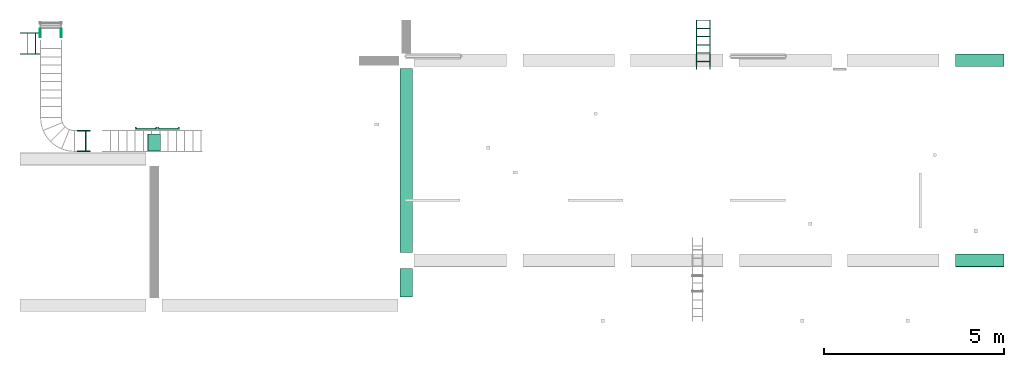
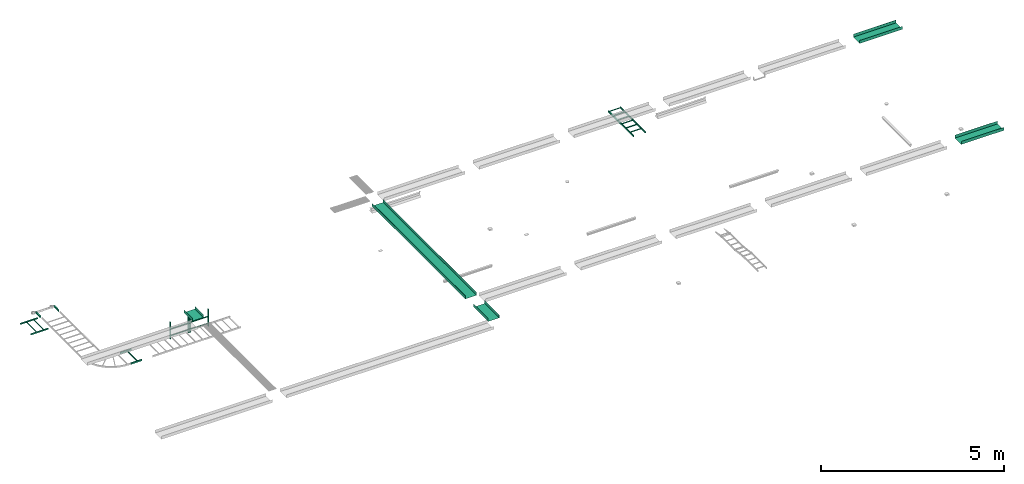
# One storey, part 9 of 14: 11 flow segments.
"""IFC2X3 building model written with IfcOpenShell, lengths in millimetres."""

from ifc_helpers import new_model, entity, si_unit, converted_unit, derived_unit, direction, frame, origin_with_axes, place, context, subcontext, project, spatial, open_shell, faceted_brep, surface_model, source, transform, mapped, type_object, element, save


model = new_model("IFC2X3")

# Units and contexts
model_context = context("Model", 3, precision=0.01, world=frame((0.0, 4.29681676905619e-09, 0.0)), true_north=direction((4.01073788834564e-13, 1.0)))
plan_context = context("Plan", 3, precision=0.01, world=frame((0.0, 4.29681676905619e-09, 0.0)), true_north=direction((4.01073788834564e-13, 1.0)))
body_context = subcontext(model_context, "Body", "Model", "MODEL_VIEW")
ifc_project = project(units=[converted_unit("PLANEANGLEUNIT", "DEGREE", entity("IfcPositiveLengthMeasure", 0.0174532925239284), si_unit("PLANEANGLEUNIT", "RADIAN"), dimensions=[0, 0, 0, 0, 0, 0, 0]), si_unit("AREAUNIT", "SQUARE_METRE"), si_unit("LENGTHUNIT", "METRE", prefix="MILLI"), si_unit("MASSUNIT", "GRAM", prefix="KILO"), si_unit("POWERUNIT", "WATT"), si_unit("PRESSUREUNIT", "PASCAL", prefix="KILO"), si_unit("FORCEUNIT", "NEWTON", prefix="KILO"), si_unit("ELECTRICVOLTAGEUNIT", "VOLT"), si_unit("ELECTRICCURRENTUNIT", "AMPERE"), si_unit("THERMODYNAMICTEMPERATUREUNIT", "DEGREE_CELSIUS"), si_unit("TIMEUNIT", "SECOND"), si_unit("VOLUMEUNIT", "CUBIC_METRE"), derived_unit("LINEARVELOCITYUNIT", [(si_unit("LENGTHUNIT", "METRE"), 1), (si_unit("TIMEUNIT", "SECOND"), -1)]), derived_unit("VOLUMETRICFLOWRATEUNIT", [(si_unit("VOLUMEUNIT", "CUBIC_METRE"), 1), (si_unit("TIMEUNIT", "SECOND"), -1)]), derived_unit("THERMALTRANSMITTANCEUNIT", [(si_unit("POWERUNIT", "WATT"), 1), (si_unit("THERMODYNAMICTEMPERATUREUNIT", "KELVIN"), -1), (si_unit("AREAUNIT", "SQUARE_METRE"), -1)]), derived_unit("SOUNDPRESSUREUNIT", [(si_unit("PRESSUREUNIT", "PASCAL"), 1)])], contexts=[model_context, plan_context])

# Site, building, storey
site_placement = place(None, frame((0.0, -4.29681676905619e-09, 0.0), z_axis=(0.0, 0.0, 1.0), x_axis=(1.0, 0.0, 0.0)))
site = spatial("IfcSite", under=ifc_project, at=site_placement, Name="ENGM", CompositionType="ELEMENT")
building_placement = place(site_placement, frame((0.0, 4.29681676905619e-09, 0.0), z_axis=(0.0, 0.0, 1.0), x_axis=(1.0, 0.0, 0.0)))
building = spatial("IfcBuilding", under=site, at=building_placement, Name="TG", CompositionType="ELEMENT")
storey_placement = place(building_placement, frame((0.0, 0.0, 205200.0), z_axis=(0.0, 0.0, 1.0), x_axis=(1.0, 0.0, 0.0)))
storey = spatial("IfcBuildingStorey", under=building, at=storey_placement, Name="Nivå D + 1,2", CompositionType="ELEMENT", Elevation=205200.0)

# Flow segments
cable_carrier_segment_type_1 = type_object("IfcCableCarrierSegmentType", Name="Kabelbro", PredefinedType="CABLELADDERSEGMENT")
shared_shape_1 = source(origin_with_axes(), body_context, "Body", "SurfaceModel", [
    surface_model("IfcShellBasedSurfaceModel", [(0.0, -274.60001, 25.0), (0.0, -300.0, -25.0), (0.0, -300.0, 25.0), (0.0, -274.60001, -25.0), (0.0, 300.0, 25.0), (0.0, 274.60001, -25.0), (0.0, 274.60001, 25.0), (0.0, 300.0, -25.0), (239.99999, -300.0, 25.0), (239.99999, -300.0, -25.0), (239.99999, -274.60001, 25.0), (239.99999, -274.60001, -25.0), (239.99999, 274.60001, 25.0), (239.99999, 274.60001, -25.0), (239.99999, 300.0, 25.0), (239.99999, 300.0, -25.0)], [open_shell([[[0, 1, 2]], [[1, 0, 3]], [[4, 5, 6]], [[5, 4, 7]], [[8, 9, 10]], [[11, 10, 9]], [[12, 13, 14]], [[15, 14, 13]], [[1, 9, 8]], [[8, 2, 1]], [[2, 8, 10]], [[10, 0, 2]], [[0, 10, 11]], [[11, 3, 0]], [[3, 11, 9]], [[9, 1, 3]], [[4, 14, 15]], [[15, 7, 4]], [[7, 15, 13]], [[13, 5, 7]], [[5, 13, 12]], [[12, 6, 5]], [[6, 12, 14]], [[14, 4, 6]]])]),
])
flow_segment_1_placement = place(storey_placement, frame((322648.78146, 467021.52624, 4130.0), z_axis=(0.0, 0.0, 1.0), x_axis=(0.0, 1.0, 0.0)))
element("IfcFlowSegment", 1, at=flow_segment_1_placement, inside=storey, type_object=cable_carrier_segment_type_1, Name="Kabelbro", context=body_context, shape_type="MappedRepresentation", body=[
    mapped(shared_shape_1, transform((0.0, 0.0, 0.0), scale=1.0)),
])
cable_carrier_segment_type_2 = type_object("IfcCableCarrierSegmentType", Name="Kabelbane", PredefinedType="CABLETRAYSEGMENT")
shared_shape_2 = source(origin_with_axes(), body_context, "Body", "SurfaceModel", [
    surface_model("IfcShellBasedSurfaceModel", [(0.0, -175.0, 50.0), (0.0, -172.46, -47.46), (0.0, -175.0, -50.0), (0.0, -172.46, 50.0), (0.0, 175.0, 50.0), (0.0, 175.0, -50.0), (0.0, 172.46, -47.46), (0.0, 172.46, 50.0), (5099.0126, 175.0, -50.0), (5099.0126, 172.46, -47.46), (5099.0126, -175.0, -50.0), (5099.0126, 175.0, 50.0), (5099.0126, -172.46, -47.46), (5099.0126, -175.0, 50.0), (5099.0126, 172.46, 50.0), (5099.0126, -172.46, 50.0)], [open_shell([[[0, 1, 2]], [[1, 0, 3]], [[4, 5, 6]], [[6, 7, 4]], [[2, 6, 5]], [[6, 2, 1]], [[8, 9, 10]], [[9, 8, 11]], [[10, 12, 13]], [[12, 10, 9]], [[11, 14, 9]], [[15, 13, 12]], [[2, 10, 13]], [[13, 0, 2]], [[0, 13, 15]], [[15, 3, 0]], [[3, 15, 12]], [[12, 1, 3]], [[1, 12, 9]], [[9, 6, 1]], [[6, 9, 14]], [[14, 7, 6]], [[7, 14, 11]], [[11, 4, 7]], [[4, 11, 8]], [[8, 5, 4]], [[5, 8, 10]], [[10, 2, 5]]])]),
])
flow_segment_2_placement = place(storey_placement, frame((332494.9875, 466160.0, 4900.0), z_axis=(0.0, 0.0, 1.0), x_axis=(0.0, -1.0, 0.0)))
element("IfcFlowSegment", 2, at=flow_segment_2_placement, inside=storey, type_object=cable_carrier_segment_type_2, Name="Kabelbane", context=body_context, shape_type="MappedRepresentation", body=[
    mapped(shared_shape_2, transform((0.0, 0.0, 0.0), scale=1.0)),
])
shared_shape_3 = source(origin_with_axes(), body_context, "Body", "SurfaceModel", [
    surface_model("IfcShellBasedSurfaceModel", [(0.0, -175.0, 50.0), (0.0, -172.46, -47.46), (0.0, -175.0, -50.0), (0.0, -172.46, 50.0), (0.0, 175.0, 50.0), (0.0, 175.0, -50.0), (0.0, 172.46, -47.46), (0.0, 172.46, 50.0), (790.00004, 175.0, -50.0), (790.00004, 172.46, -47.46), (790.00004, -175.0, -50.0), (790.00004, 175.0, 50.0), (790.00004, -172.46, -47.46), (790.00004, -175.0, 50.0), (790.00004, 172.46, 50.0), (790.00004, -172.46, 50.0)], [open_shell([[[0, 1, 2]], [[1, 0, 3]], [[4, 5, 6]], [[6, 7, 4]], [[2, 6, 5]], [[6, 2, 1]], [[8, 9, 10]], [[9, 8, 11]], [[10, 12, 13]], [[12, 10, 9]], [[11, 14, 9]], [[15, 13, 12]], [[2, 10, 13]], [[13, 0, 2]], [[0, 13, 15]], [[15, 3, 0]], [[3, 15, 12]], [[12, 1, 3]], [[1, 12, 9]], [[9, 6, 1]], [[6, 9, 14]], [[14, 7, 6]], [[7, 14, 11]], [[11, 4, 7]], [[4, 11, 8]], [[8, 5, 4]], [[5, 8, 10]], [[10, 2, 5]]])]),
])
flow_segment_3_placement = place(storey_placement, frame((332494.9875, 460610.9875, 4900.0), z_axis=(0.0, 0.0, 1.0), x_axis=(0.0, -1.0, 0.0)))
element("IfcFlowSegment", 3, at=flow_segment_3_placement, inside=storey, type_object=cable_carrier_segment_type_2, Name="Kabelbane", context=body_context, shape_type="MappedRepresentation", body=[
    mapped(shared_shape_3, transform((0.0, 0.0, 0.0), scale=1.0)),
])
shared_shape_4 = source(origin_with_axes(), body_context, "Body", "SurfaceModel", [
    surface_model("IfcShellBasedSurfaceModel", [(0.0, -175.0, 50.0), (0.0, -172.46, -47.46), (0.0, -175.0, -50.0), (0.0, 175.0, -50.0), (0.0, -172.46, 50.0), (0.0, 175.0, 50.0), (0.0, 172.46, -47.46), (0.0, 172.46, 50.0), (467.49999, -172.46, 50.0), (467.49999, -175.0, 50.0), (467.49999, -172.46, -47.46), (467.49999, 175.0, 50.0), (467.49999, 172.46, 50.0), (467.49999, 172.46, -47.46), (467.49999, -175.0, -50.0), (467.49999, 175.0, -50.0)], [open_shell([[[0, 1, 2]], [[3, 2, 1]], [[1, 0, 4]], [[5, 3, 6]], [[1, 6, 3]], [[6, 7, 5]], [[8, 9, 10]], [[11, 12, 13]], [[10, 14, 15]], [[14, 10, 9]], [[13, 15, 11]], [[15, 13, 10]], [[2, 14, 9]], [[9, 0, 2]], [[0, 9, 8]], [[8, 4, 0]], [[4, 8, 10]], [[10, 1, 4]], [[1, 10, 13]], [[13, 6, 1]], [[6, 13, 12]], [[12, 7, 6]], [[7, 12, 11]], [[11, 5, 7]], [[5, 11, 15]], [[15, 3, 5]], [[3, 15, 14]], [[14, 2, 3]]])]),
])
flow_segment_4_placement = place(storey_placement, frame((325510.0, 464340.0, 4900.0), z_axis=(0.0, 0.0, 1.0), x_axis=(0.0, -1.0, 0.0)))
element("IfcFlowSegment", 4, at=flow_segment_4_placement, inside=storey, type_object=cable_carrier_segment_type_2, Name="Kabelbane", context=body_context, shape_type="MappedRepresentation", body=[
    mapped(shared_shape_4, transform((0.0, 0.0, 0.0), scale=1.0)),
])
shared_shape_5 = source(origin_with_axes(), body_context, "Body", "SurfaceModel", [
    surface_model("IfcShellBasedSurfaceModel", [(241.30001, -274.60001, 0.4), (215.89999, -274.60001, 0.4), (215.89999, -274.60001, -25.0), (241.30001, -274.60001, -25.0), (215.89999, 274.60001, -25.0), (215.89999, 274.60001, 0.4), (241.30001, 274.60001, 0.4), (241.30001, 274.60001, -25.0), (0.0, -274.60001, 25.0), (0.0, -300.0, -25.0), (0.0, -300.0, 25.0), (0.0, -274.60001, -25.0), (0.0, 300.0, 25.0), (0.0, 274.60001, -25.0), (0.0, 274.60001, 25.0), (0.0, 300.0, -25.0), (354.99999, -300.0, 25.0), (354.99999, -300.0, -25.0), (354.99999, -274.60001, 25.0), (354.99999, -274.60001, -25.0), (354.99999, 274.60001, 25.0), (354.99999, 274.60001, -25.0), (354.99999, 300.0, 25.0), (354.99999, 300.0, -25.0)], [open_shell([[[0, 1, 2]], [[2, 3, 0]], [[4, 5, 6]], [[6, 7, 4]], [[3, 7, 6]], [[6, 0, 3]], [[0, 6, 5]], [[5, 1, 0]], [[1, 5, 4]], [[4, 2, 1]], [[2, 4, 7]], [[7, 3, 2]], [[8, 9, 10]], [[9, 8, 11]], [[12, 13, 14]], [[13, 12, 15]], [[16, 17, 18]], [[19, 18, 17]], [[20, 21, 22]], [[23, 22, 21]], [[9, 17, 16]], [[16, 10, 9]], [[10, 16, 18]], [[18, 8, 10]], [[8, 18, 19]], [[19, 11, 8]], [[11, 19, 17]], [[17, 9, 11]], [[12, 22, 23]], [[23, 15, 12]], [[15, 23, 21]], [[21, 13, 15]], [[13, 21, 20]], [[20, 14, 13]], [[14, 20, 22]], [[22, 12, 14]]])]),
])
flow_segment_5_placement = place(storey_placement, frame((323383.78146, 464146.99598, 4130.0), z_axis=(0.0, 0.0, 1.0), x_axis=(1.0, 0.0, 0.0)))
element("IfcFlowSegment", 5, at=flow_segment_5_placement, inside=storey, type_object=cable_carrier_segment_type_1, Name="Kabelbro", context=body_context, shape_type="MappedRepresentation", body=[
    mapped(shared_shape_5, transform((0.0, 0.0, 0.0), scale=1.0)),
])
flow_segment_6_placement = place(storey_placement, frame((340730.3575, 466125.0, 4325.0), z_axis=(0.0, 0.0, 1.0), x_axis=(0.0, 1.0, 0.0)))
element("IfcFlowSegment", 6, at=flow_segment_6_placement, inside=storey, type_object=cable_carrier_segment_type_1, Name="Kabelbro", context=body_context, shape_type="Brep", body=[
    faceted_brep([(0.0, -200.0, -25.0), (0.0, -174.60001, -25.0), (0.0, -200.0, 25.0), (0.0, -174.60001, 25.0), (0.0, 174.60001, -25.0), (0.0, 200.0, -25.0), (0.0, 174.60001, 25.0), (0.0, 200.0, 25.0), (215.89999, -174.60001, -25.0), (215.89999, -174.60001, 0.4), (241.30001, -174.60001, 0.4), (241.30001, -174.60001, -25.0), (241.30001, 174.60001, 0.4), (215.89999, 174.60001, 0.4), (215.89999, 174.60001, -25.0), (241.30001, 174.60001, -25.0), (444.50001, -174.60001, -25.0), (444.50001, -174.60001, 0.4), (469.89999, -174.60001, 0.4), (469.89999, -174.60001, -25.0), (469.89999, 174.60001, 0.4), (444.50001, 174.60001, 0.4), (444.50001, 174.60001, -25.0), (469.89999, 174.60001, -25.0), (673.09998, -174.60001, -25.0), (673.09998, -174.60001, 0.4), (698.50002, -174.60001, 0.4), (698.50002, -174.60001, -25.0), (698.50002, 174.60001, 0.4), (673.09998, 174.60001, 0.4), (673.09998, 174.60001, -25.0), (698.50002, 174.60001, -25.0), (901.69998, -174.60001, -25.0), (901.69998, -174.60001, 0.4), (927.10002, -174.60001, 0.4), (927.10002, -174.60001, -25.0), (927.10002, 174.60001, 0.4), (901.69998, 174.60001, 0.4), (901.69998, 174.60001, -25.0), (927.10002, 174.60001, -25.0), (1130.29998, -174.60001, -25.0), (1130.29998, -174.60001, 0.4), (1155.70002, -174.60001, 0.4), (1155.70002, -174.60001, -25.0), (1155.70002, 174.60001, 0.4), (1130.29998, 174.60001, 0.4), (1130.29998, 174.60001, -25.0), (1155.70002, 174.60001, -25.0), (1374.99999999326, -174.60001, 0.4), (1374.99999999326, -174.60001, -8.89998662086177), (1358.90005, -174.60001, -25.0), (1358.90005, -174.60001, 0.4), (1374.99999999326, -174.60001, -25.0), (1374.99999999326, 174.60001, -8.89998662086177), (1374.99999999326, 174.60001, 0.4), (1358.90005, 174.60001, 0.4), (1358.90005, 174.60001, -25.0), (1374.99999999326, 174.60001, -25.0), (1374.99999999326, -46.7434937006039, 0.4), (1374.99999999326, 46.7434937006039, -25.0), (1374.99999999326, -200.0, -19.2056469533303), (1374.99999999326, -200.0, -25.0), (1374.99999999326, -200.0, 25.0), (1374.99999999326, -197.056469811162, 25.0), (1374.99999999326, -174.60001, 25.0), (1374.99999999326, -174.60001, 19.2056469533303), (1374.99999999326, -177.543540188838, -25.0), (1374.99999999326, 200.0, 19.2056469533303), (1374.99999999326, 200.0, 25.0), (1374.99999999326, 200.0, -25.0), (1374.99999999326, 197.056469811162, -25.0), (1374.99999999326, 174.60001, -19.2056469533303), (1374.99999999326, 174.60001, 25.0), (1374.99999999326, 177.543540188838, 25.0)], [[[0, 1, 2]], [[3, 2, 1]], [[4, 5, 6]], [[7, 6, 5]], [[8, 9, 10]], [[10, 11, 8]], [[12, 13, 14]], [[14, 15, 12]], [[12, 15, 11]], [[11, 10, 12]], [[13, 12, 10]], [[10, 9, 13]], [[14, 13, 9]], [[9, 8, 14]], [[15, 14, 8]], [[8, 11, 15]], [[16, 17, 18]], [[18, 19, 16]], [[20, 21, 22]], [[22, 23, 20]], [[20, 23, 19]], [[19, 18, 20]], [[21, 20, 18]], [[18, 17, 21]], [[22, 21, 17]], [[17, 16, 22]], [[23, 22, 16]], [[16, 19, 23]], [[24, 25, 26]], [[26, 27, 24]], [[28, 29, 30]], [[30, 31, 28]], [[28, 31, 27]], [[27, 26, 28]], [[29, 28, 26]], [[26, 25, 29]], [[30, 29, 25]], [[25, 24, 30]], [[31, 30, 24]], [[24, 27, 31]], [[32, 33, 34]], [[34, 35, 32]], [[36, 37, 38]], [[38, 39, 36]], [[36, 39, 35]], [[35, 34, 36]], [[37, 36, 34]], [[34, 33, 37]], [[38, 37, 33]], [[33, 32, 38]], [[39, 38, 32]], [[32, 35, 39]], [[40, 41, 42]], [[42, 43, 40]], [[44, 45, 46]], [[46, 47, 44]], [[44, 47, 43]], [[43, 42, 44]], [[45, 44, 42]], [[42, 41, 45]], [[46, 45, 41]], [[41, 40, 46]], [[47, 46, 40]], [[40, 43, 47]], [[48, 49, 50, 51]], [[49, 52, 50]], [[53, 54, 55, 56]], [[57, 53, 56]], [[54, 58, 55]], [[58, 48, 51, 55]], [[56, 55, 51]], [[51, 50, 56]], [[59, 57, 56, 50]], [[52, 59, 50]], [[60, 61, 0]], [[62, 60, 0, 2]], [[63, 62, 2]], [[64, 63, 2, 3]], [[65, 64, 3]], [[52, 65, 3, 1]], [[66, 52, 1]], [[61, 66, 1, 0]], [[67, 68, 7]], [[69, 67, 7, 5]], [[70, 69, 5]], [[57, 70, 5, 4]], [[71, 57, 4]], [[72, 71, 4, 6]], [[73, 72, 6]], [[68, 73, 6, 7]], [[58, 54, 53, 57, 59, 52, 49, 48]], [[62, 63, 64, 65, 52, 66, 61, 60]], [[69, 70, 57, 71, 72, 73, 68, 67]]], orient=[[False], [False], [False], [False], [False], [False], [False], [False], [False], [False], [False], [False], [False], [False], [False], [False], [False], [False], [False], [False], [False], [False], [False], [False], [False], [False], [False], [False], [False], [False], [False], [False], [False], [False], [False], [False], [False], [False], [False], [False], [False], [False], [False], [False], [False], [False], [False], [False], [False], [False], [False], [False], [False], [False], [False], [False], [False], [False], [False], [False], [False], [False], [False], [False], [False], [False], [False], [False], [False], [False], [False], [False], [False], [False], [False], [False], [False], [False], [False], [False], [False], [False], [False], [False], [False], [False], [False], [False], [False], [False], [False], [False], [False]]),
])
flow_segment_7_placement = place(storey_placement, frame((316508.86823, 466850.35926, 4015.0), z_axis=(0.0, 0.0, 1.0), x_axis=(1.0, 0.0, 0.0)))
element("IfcFlowSegment", 7, at=flow_segment_7_placement, inside=storey, type_object=cable_carrier_segment_type_1, Name="Kabelbro", context=body_context, shape_type="Brep", body=[
    faceted_brep([(5483.7000403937, -274.60001, -15.0), (5473.70019, -274.60001, -15.0), (5473.70019, -274.60001, 0.4), (5499.09981, -274.60001, 0.4), (5499.09981, -274.60001, -15.0), (5473.70019, 274.60001, -15.0), (5483.7000403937, 274.60001, -15.0), (5499.09981, 274.60001, 0.4), (5473.70019, 274.60001, 0.4), (5499.09981, 274.60001, -15.0), (5499.09981, -58.3795296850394, -15.0), (5473.70019, 58.3795296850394, -15.0), (5712.3000403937, -274.60001, -15.0), (5702.30019, -274.60001, -15.0), (5702.30019, -274.60001, 0.4), (5727.69981, -274.60001, 0.4), (5727.69981, -274.60001, -15.0), (5702.30019, 274.60001, -15.0), (5712.3000403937, 274.60001, -15.0), (5727.69981, 274.60001, 0.4), (5702.30019, 274.60001, 0.4), (5727.69981, 274.60001, -15.0), (5727.69981, -58.3795296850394, -15.0), (5702.30019, 58.3795296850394, -15.0), (5839.91331, -294.920002, -15.0), (5839.91331, -300.0, -15.0), (5839.91331, -300.0, 25.0), (5839.91331, -274.60001, 25.0), (5839.91331, -274.60001, -15.0), (5839.91331, 279.680008, -15.0), (5839.91331, 274.60001, -15.0), (5839.91331, 274.60001, 25.0), (5839.91331, 300.0, 25.0), (5839.91331, 300.0, -15.0), (5285.88177000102, -300.0, -15.0), (5285.88177000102, -300.0, 20.2565088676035), (5285.88177000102, -300.0, 25.0), (5285.88177000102, -277.009702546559, 25.0), (5285.88177000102, -274.60001, 25.0), (5285.88177000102, -274.60001, -15.0), (5285.88177000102, 300.0, 25.0), (5285.88177000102, 300.0, -15.0), (5285.88177000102, 274.60001, -15.0), (5285.88177000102, 274.60001, 20.2565088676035), (5285.88177000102, 274.60001, 25.0), (5285.88177000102, 297.590307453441, 25.0)], [[[0, 1, 2, 3]], [[4, 0, 3]], [[5, 6, 7, 8]], [[6, 9, 7]], [[9, 10, 7]], [[10, 4, 3, 7]], [[8, 7, 3]], [[3, 2, 8]], [[11, 5, 8, 2]], [[1, 11, 2]], [[12, 13, 14, 15]], [[16, 12, 15]], [[17, 18, 19, 20]], [[18, 21, 19]], [[21, 22, 19]], [[22, 16, 15, 19]], [[20, 19, 15]], [[15, 14, 20]], [[23, 17, 20, 14]], [[13, 23, 14]], [[24, 25, 26, 27]], [[28, 24, 27]], [[29, 30, 31, 32]], [[33, 29, 32]], [[25, 34, 35, 26]], [[35, 36, 26]], [[36, 37, 27, 26]], [[37, 38, 27]], [[38, 39, 28, 27]], [[40, 41, 33, 32]], [[30, 42, 43, 31]], [[43, 44, 31]], [[44, 45, 32, 31]], [[45, 40, 32]], [[39, 38, 36, 34]], [[41, 40, 44, 42]], [[34, 25, 28, 39]], [[4, 10, 9, 6, 5, 11, 1, 0]], [[16, 22, 21, 18, 17, 23, 13, 12]], [[42, 30, 33, 41]], [[4, 10, 9, 6, 5, 11, 1, 0]], [[16, 22, 21, 18, 17, 23, 13, 12]]], orient=[[False], [False], [False], [False], [False], [False], [False], [False], [False], [False], [False], [False], [False], [False], [False], [False], [False], [False], [False], [False], [False], [False], [False], [False], [False], [False], [False], [False], [False], [False], [False], [False], [False], [False], [False], [False], [False], [False], [False], [False], [False], [False]]),
])
flow_segment_8_placement = place(storey_placement, frame((325287.55416, 464503.75, -1150.0), z_axis=(0.0, 1.0, 0.0), x_axis=(0.0, 0.0, 1.0)))
element("IfcFlowSegment", 8, at=flow_segment_8_placement, inside=storey, type_object=cable_carrier_segment_type_1, Name="Kabelbro", context=body_context, shape_type="Brep", body=[
    faceted_brep([(5245.10019, -274.60001, -25.0), (5245.10019, -274.60001, 0.4), (5270.49981, -274.60001, 0.4), (5270.49981, -274.60001, -25.0), (5270.49981, 274.60001, 0.4), (5245.10019, 274.60001, 0.4), (5245.10019, 274.60001, -25.0), (5270.49981, 274.60001, -25.0), (5473.70019, -274.60001, -25.0), (5473.70019, -274.60001, 0.4), (5499.09981, -274.60001, 0.4), (5499.09981, -274.60001, -25.0), (5499.09981, 274.60001, 0.4), (5473.70019, 274.60001, 0.4), (5473.70019, 274.60001, -25.0), (5499.09981, 274.60001, -25.0), (5715.0, -274.60001, 25.0), (5715.0, -300.0, -25.0), (5715.0, -300.0, 25.0), (5715.0, -274.60001, -25.0), (5715.0, 300.0, 25.0), (5715.0, 274.60001, -25.0), (5715.0, 274.60001, 25.0), (5715.0, 300.0, -25.0), (5150.0, -300.0, -25.0), (5150.0, -300.0, 20.0568678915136), (5150.0, -300.0, 25.0), (5150.0, -277.111120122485, 25.0), (5150.0, -274.60001, 25.0), (5150.0, -274.60001, -20.0568678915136), (5150.0, -274.60001, -25.0), (5150.0, -297.488889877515, -25.0), (5150.0, 300.0, 25.0), (5150.0, 300.0, -20.0568678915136), (5150.0, 300.0, -25.0), (5150.0, 277.111120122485, -25.0), (5150.0, 274.60001, -25.0), (5150.0, 274.60001, 20.0568678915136), (5150.0, 274.60001, 25.0), (5150.0, 297.488889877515, 25.0)], [[[0, 1, 2]], [[2, 3, 0]], [[4, 5, 6]], [[6, 7, 4]], [[4, 7, 3]], [[3, 2, 4]], [[5, 4, 2]], [[2, 1, 5]], [[6, 5, 1]], [[1, 0, 6]], [[7, 6, 0]], [[0, 3, 7]], [[8, 9, 10]], [[10, 11, 8]], [[12, 13, 14]], [[14, 15, 12]], [[12, 15, 11]], [[11, 10, 12]], [[13, 12, 10]], [[10, 9, 13]], [[14, 13, 9]], [[9, 8, 14]], [[15, 14, 8]], [[8, 11, 15]], [[16, 17, 18]], [[17, 16, 19]], [[20, 21, 22]], [[21, 20, 23]], [[24, 25, 18, 17]], [[25, 26, 18]], [[26, 27, 16, 18]], [[27, 28, 16]], [[28, 29, 19, 16]], [[29, 30, 19]], [[30, 31, 17, 19]], [[31, 24, 17]], [[32, 33, 23, 20]], [[33, 34, 23]], [[34, 35, 21, 23]], [[35, 36, 21]], [[36, 37, 22, 21]], [[37, 38, 22]], [[38, 39, 20, 22]], [[39, 32, 20]], [[31, 30, 29, 28, 27, 26, 25, 24]], [[39, 38, 37, 36, 35, 34, 33, 32]]], orient=[[False], [False], [False], [False], [False], [False], [False], [False], [False], [False], [False], [False], [False], [False], [False], [False], [False], [False], [False], [False], [False], [False], [False], [False], [False], [False], [False], [False], [False], [False], [False], [False], [False], [False], [False], [False], [False], [False], [False], [False], [False], [False], [False], [False], [False], [False]]),
])
flow_segment_9_placement = place(storey_placement, frame((325912.55416, 464503.75, -1150.0), z_axis=(0.0, 1.0, 0.0), x_axis=(0.0, 0.0, 1.0)))
element("IfcFlowSegment", 9, at=flow_segment_9_placement, inside=storey, type_object=cable_carrier_segment_type_1, Name="Kabelbro", context=body_context, shape_type="Brep", body=[
    faceted_brep([(5245.10019, -274.60001, -25.0), (5245.10019, -274.60001, 0.4), (5270.49981, -274.60001, 0.4), (5270.49981, -274.60001, -25.0), (5270.49981, 274.60001, 0.4), (5245.10019, 274.60001, 0.4), (5245.10019, 274.60001, -25.0), (5270.49981, 274.60001, -25.0), (5473.70019, -274.60001, -25.0), (5473.70019, -274.60001, 0.4), (5499.09981, -274.60001, 0.4), (5499.09981, -274.60001, -25.0), (5499.09981, 274.60001, 0.4), (5473.70019, 274.60001, 0.4), (5473.70019, 274.60001, -25.0), (5499.09981, 274.60001, -25.0), (5715.0, -274.60001, 25.0), (5715.0, -300.0, -25.0), (5715.0, -300.0, 25.0), (5715.0, -274.60001, -25.0), (5715.0, 300.0, 25.0), (5715.0, 274.60001, -25.0), (5715.0, 274.60001, 25.0), (5715.0, 300.0, -25.0), (5150.0, -300.0, -25.0), (5150.0, -300.0, 20.0568678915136), (5150.0, -300.0, 25.0), (5150.0, -277.111120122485, 25.0), (5150.0, -274.60001, 25.0), (5150.0, -274.60001, -20.0568678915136), (5150.0, -274.60001, -25.0), (5150.0, -297.488889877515, -25.0), (5150.0, 300.0, 25.0), (5150.0, 300.0, -20.0568678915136), (5150.0, 300.0, -25.0), (5150.0, 277.111120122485, -25.0), (5150.0, 274.60001, -25.0), (5150.0, 274.60001, 20.0568678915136), (5150.0, 274.60001, 25.0), (5150.0, 297.488889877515, 25.0)], [[[0, 1, 2]], [[2, 3, 0]], [[4, 5, 6]], [[6, 7, 4]], [[4, 7, 3]], [[3, 2, 4]], [[5, 4, 2]], [[2, 1, 5]], [[6, 5, 1]], [[1, 0, 6]], [[7, 6, 0]], [[0, 3, 7]], [[8, 9, 10]], [[10, 11, 8]], [[12, 13, 14]], [[14, 15, 12]], [[12, 15, 11]], [[11, 10, 12]], [[13, 12, 10]], [[10, 9, 13]], [[14, 13, 9]], [[9, 8, 14]], [[15, 14, 8]], [[8, 11, 15]], [[16, 17, 18]], [[17, 16, 19]], [[20, 21, 22]], [[21, 20, 23]], [[24, 25, 18, 17]], [[25, 26, 18]], [[26, 27, 16, 18]], [[27, 28, 16]], [[28, 29, 19, 16]], [[29, 30, 19]], [[30, 31, 17, 19]], [[31, 24, 17]], [[32, 33, 23, 20]], [[33, 34, 23]], [[34, 35, 21, 23]], [[35, 36, 21]], [[36, 37, 22, 21]], [[37, 38, 22]], [[38, 39, 20, 22]], [[39, 32, 20]], [[31, 30, 29, 28, 27, 26, 25, 24]], [[39, 38, 37, 36, 35, 34, 33, 32]]], orient=[[False], [False], [False], [False], [False], [False], [False], [False], [False], [False], [False], [False], [False], [False], [False], [False], [False], [False], [False], [False], [False], [False], [False], [False], [False], [False], [False], [False], [False], [False], [False], [False], [False], [False], [False], [False], [False], [False], [False], [False], [False], [False], [False], [False], [False], [False]]),
])
for number, where, z_axis, x_axis in (
    (10, (350280.0125, 466385.4934, 4900.0), (0.0, 0.0, 1.0), (-1.0, 0.0, 0.0)),
    (11, (350280.0125, 460835.9875, 4900.0), (0.0, 0.0, 1.0), (-1.0, 0.0, 0.0)),
):
    element("IfcFlowSegment", number, at=place(storey_placement, frame(where, z_axis=z_axis, x_axis=x_axis)), inside=storey, type_object=cable_carrier_segment_type_2, Name="Kabelbane", context=body_context, shape_type="Brep", body=[
        faceted_brep([(2560.02513, -175.0, 50.0), (2560.02513, -172.46, -47.46), (2560.02513, -175.0, -50.0), (2560.02513, -172.46, 50.0), (2560.02513, 175.0, -50.0), (2560.02513, 172.46, -47.46), (2560.02513, 175.0, 50.0), (2560.02513, 172.46, 50.0), (1215.51249999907, -175.0, -50.0), (1215.51249999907, -175.0, -2.51950905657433), (1215.51249999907, -175.0, 50.0), (1215.51249999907, -173.793995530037, 50.0), (1215.51249999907, -172.46, 50.0), (1215.51249999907, -172.46, 3.72551352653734), (1215.51249999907, -172.46, -47.46), (1215.51249999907, -8.69029063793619, -47.46), (1215.51249999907, 172.46, -47.46), (1215.51249999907, 172.46, -1.18551352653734), (1215.51249999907, 172.46, 50.0), (1215.51249999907, 173.666004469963, 50.0), (1215.51249999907, 175.0, 50.0), (1215.51249999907, 175.0, 2.51950905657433), (1215.51249999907, 175.0, -50.0), (1215.51249999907, 8.81828169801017, -50.0)], [[[0, 1, 2]], [[1, 0, 3]], [[4, 2, 1]], [[1, 5, 4]], [[6, 4, 5]], [[5, 7, 6]], [[8, 9, 0, 2]], [[9, 10, 0]], [[10, 11, 3, 0]], [[11, 12, 3]], [[12, 13, 1, 3]], [[13, 14, 1]], [[14, 15, 5, 1]], [[15, 16, 5]], [[16, 17, 7, 5]], [[17, 18, 7]], [[18, 19, 6, 7]], [[19, 20, 6]], [[20, 21, 4, 6]], [[21, 22, 4]], [[22, 23, 2, 4]], [[23, 8, 2]], [[23, 22, 21, 20, 19, 18, 17, 16, 15, 14, 13, 12, 11, 10, 9, 8]]], orient=[[False], [False], [False], [False], [False], [False], [False], [False], [False], [False], [False], [False], [False], [False], [False], [False], [False], [False], [False], [False], [False], [False], [False]]),
    ])

save(model, "model.ifc")
